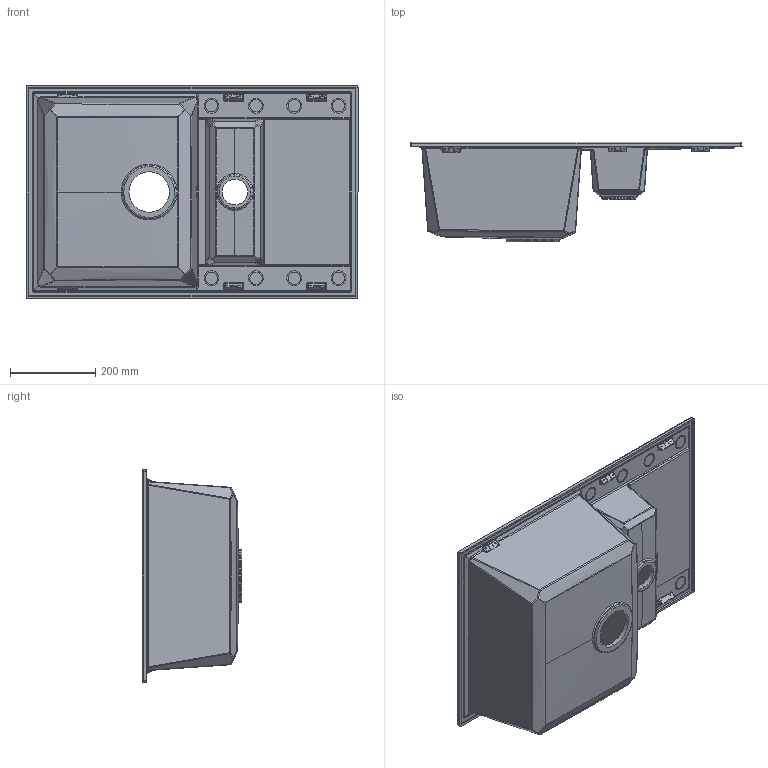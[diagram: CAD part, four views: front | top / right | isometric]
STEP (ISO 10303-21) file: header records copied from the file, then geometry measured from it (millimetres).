
FILE_DESCRIPTION (( 'STEP AP203' ), '1' );
FILE_NAME ('Easy 325.STEP', '2018-10-10T14:49:50', ( '' ), ( '' ), 'SwSTEP 2.0', 'SolidWorks 2013', '' );
FILE_SCHEMA (( 'CONFIG_CONTROL_DESIGN' ));
Length unit declared in the file: millimetre
Products named in the file (1): Easy 325
Bounding box: 780 x 234 x 500 mm (x, y, z)
Volume: 6131951.7 mm3; surface area: 1539593.1 mm2
Topology: 1 solids, 1 shells, 926 faces, 2128 edges, 1191 vertices
Faces by surface type: bspline 488, cylinder 303, plane 119, cone 16
Entity records: 43776 total; most frequent: CARTESIAN_POINT 26521, ORIENTED_EDGE 4162, DIRECTION 2776, EDGE_CURVE 2081, VERTEX_POINT 1191, AXIS2_PLACEMENT_3D 1106, EDGE_LOOP 966, ADVANCED_FACE 926
